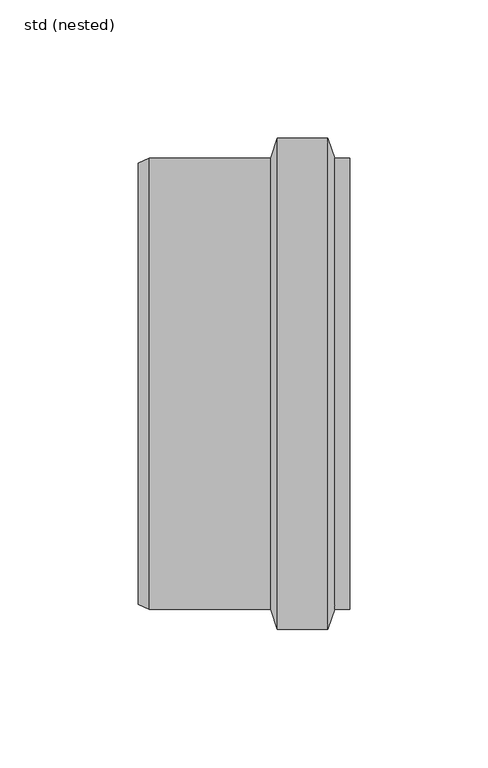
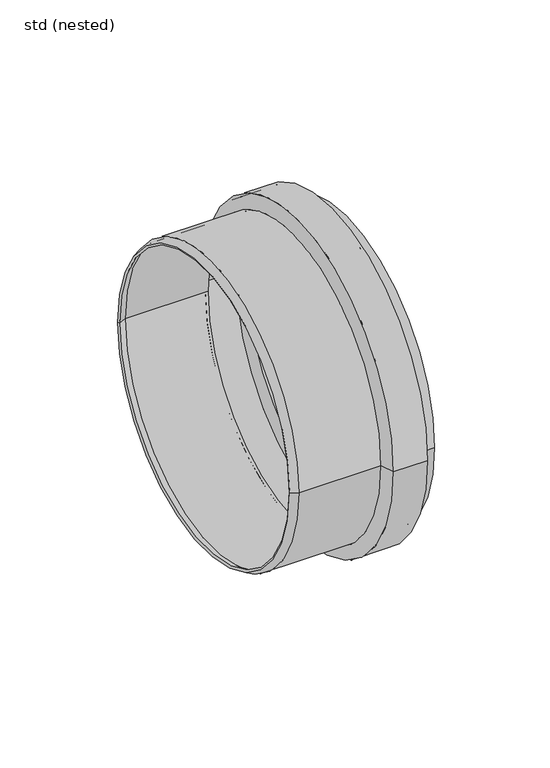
"""IFC4 building model written with IfcOpenShell, lengths in millimetres: pipe fitting geometry, ZZZ_do not use_PIF_ST_UN_ACO pipe socket_ACO : std (nested)."""

from ifc_helpers import new_model, si_unit, frame, origin, place, context, project, spatial, polyline, circle_curve, source, transform, mapped, element, save
from ifc_brep_helpers import plane_surface, cylinder_surface, revolved_surface, advanced_brep


def std_nested_4988e8d9(model_context):
    return source(origin(), model_context, "Body", "AdvancedBrep", [
        advanced_brep(
        [(70.0, -80.5, 0.0), (70.0, 80.5, 0.0), (63.7, 80.5, 0.0), (63.7, -80.5, 0.0), (70.0, -81.8, 0.0), (70.0, 81.8, 0.0), (64.6247477, -81.8, 0.0), (64.6247477, 81.8, 0.0), (62.1247477, -89.0, 0.0), (62.1247477, 89.0, 0.0), (43.8752523, -89.0, 0.0), (43.8752523, 89.0, 0.0), (41.3752523, -81.8, 0.0), (41.3752523, 81.8, 0.0), (-2.4923261, -81.8, 0.0), (-2.4923261, 81.8, 0.0), (-6.5565122, -79.8748592, 0.0), (-6.5565122, 79.8748592, 0.0), (-6.0, -78.7, 0.0), (-6.0, 78.7, 0.0), (-2.2, -80.5, 0.0), (-2.2, 80.5, 0.0), (42.3, -80.5, 0.0), (42.3, 80.5, 0.0), (44.8, -87.7, 0.0), (44.8, 87.7, 0.0), (61.2, -87.7, 0.0), (61.2, 87.7, 0.0)],
        [
            (0, 1, circle_curve(frame((70.0, 0.0, 0.0), z_axis=(1.0, 0.0, 0.0), x_axis=(0.0, 1.0, 0.0)), 80.5)),
            (1, 2),
            (2, 3, circle_curve(frame((63.7, 0.0, 0.0), z_axis=(-1.0, 0.0, 0.0), x_axis=(0.0, 1.0, 0.0)), 80.5)),
            (3, 0),
            (1, 0, circle_curve(frame((70.0, 0.0, 0.0), z_axis=(1.0, 0.0, 0.0), x_axis=(0.0, 1.0, 0.0)), 80.5)),
            (3, 2, circle_curve(frame((63.7, 0.0, 0.0), z_axis=(-1.0, 0.0, 0.0), x_axis=(0.0, 1.0, 0.0)), 80.5)),
            (4, 5, circle_curve(frame((70.0, 0.0, 0.0), z_axis=(1.0, 0.0, 0.0), x_axis=(0.0, 1.0, 0.0)), 81.8)),
            (5, 1),
            (0, 4),
            (5, 4, circle_curve(frame((70.0, 0.0, 0.0), z_axis=(1.0, 0.0, 0.0), x_axis=(0.0, 1.0, 0.0)), 81.8)),
            (6, 7, circle_curve(frame((64.6247477, 0.0, 0.0), z_axis=(1.0, 0.0, 0.0), x_axis=(0.0, 1.0, 0.0)), 81.8)),
            (7, 5),
            (4, 6),
            (7, 6, circle_curve(frame((64.6247477, 0.0, 0.0), z_axis=(1.0, 0.0, 0.0), x_axis=(0.0, 1.0, 0.0)), 81.8)),
            (8, 9, circle_curve(frame((62.1247477, 0.0, 0.0), z_axis=(1.0, 0.0, 0.0), x_axis=(0.0, 1.0, 0.0)), 89.0)),
            (9, 7),
            (6, 8),
            (9, 8, circle_curve(frame((62.1247477, 0.0, 0.0), z_axis=(1.0, 0.0, 0.0), x_axis=(0.0, 1.0, 0.0)), 89.0)),
            (10, 11, circle_curve(frame((43.8752523, 0.0, 0.0), z_axis=(1.0, 0.0, 0.0), x_axis=(0.0, 1.0, 0.0)), 89.0)),
            (11, 9),
            (8, 10),
            (11, 10, circle_curve(frame((43.8752523, 0.0, 0.0), z_axis=(1.0, 0.0, 0.0), x_axis=(0.0, 1.0, 0.0)), 89.0)),
            (12, 13, circle_curve(frame((41.3752523, 0.0, 0.0), z_axis=(1.0, 0.0, 0.0), x_axis=(0.0, 1.0, 0.0)), 81.8)),
            (13, 11),
            (10, 12),
            (13, 12, circle_curve(frame((41.3752523, 0.0, 0.0), z_axis=(1.0, 0.0, 0.0), x_axis=(0.0, 1.0, 0.0)), 81.8)),
            (14, 15, circle_curve(frame((-2.4923261, 0.0, 0.0), z_axis=(1.0, 0.0, 0.0), x_axis=(0.0, 1.0, 0.0)), 81.8)),
            (15, 13),
            (12, 14),
            (15, 14, circle_curve(frame((-2.4923261, 0.0, 0.0), z_axis=(1.0, 0.0, 0.0), x_axis=(0.0, 1.0, 0.0)), 81.8)),
            (16, 17, circle_curve(frame((-6.5565122, 0.0, 0.0), z_axis=(1.0, 0.0, 0.0), x_axis=(0.0, 1.0, 0.0)), 79.8748592)),
            (17, 15),
            (14, 16),
            (17, 16, circle_curve(frame((-6.5565122, 0.0, 0.0), z_axis=(1.0, 0.0, 0.0), x_axis=(0.0, 1.0, 0.0)), 79.8748592)),
            (18, 19, circle_curve(frame((-6.0, 0.0, 0.0), z_axis=(1.0, 0.0, 0.0), x_axis=(0.0, 1.0, 0.0)), 78.7)),
            (19, 17),
            (16, 18),
            (19, 18, circle_curve(frame((-6.0, 0.0, 0.0), z_axis=(1.0, 0.0, 0.0), x_axis=(0.0, 1.0, 0.0)), 78.7)),
            (20, 21, circle_curve(frame((-2.2, 0.0, 0.0), z_axis=(1.0, 0.0, 0.0), x_axis=(0.0, 1.0, 0.0)), 80.5)),
            (21, 19),
            (18, 20),
            (21, 20, circle_curve(frame((-2.2, 0.0, 0.0), z_axis=(1.0, 0.0, 0.0), x_axis=(0.0, 1.0, 0.0)), 80.5)),
            (22, 23, circle_curve(frame((42.3, 0.0, 0.0), z_axis=(1.0, 0.0, 0.0), x_axis=(0.0, 1.0, 0.0)), 80.5)),
            (23, 21),
            (20, 22),
            (23, 22, circle_curve(frame((42.3, 0.0, 0.0), z_axis=(1.0, 0.0, 0.0), x_axis=(0.0, 1.0, 0.0)), 80.5)),
            (24, 25, circle_curve(frame((44.8, 0.0, 0.0), z_axis=(1.0, 0.0, 0.0), x_axis=(0.0, 1.0, 0.0)), 87.7)),
            (25, 23),
            (22, 24),
            (25, 24, circle_curve(frame((44.8, 0.0, 0.0), z_axis=(1.0, 0.0, 0.0), x_axis=(0.0, 1.0, 0.0)), 87.7)),
            (26, 27, circle_curve(frame((61.2, 0.0, 0.0), z_axis=(1.0, 0.0, 0.0), x_axis=(0.0, 1.0, 0.0)), 87.7)),
            (27, 25),
            (24, 26),
            (27, 26, circle_curve(frame((61.2, 0.0, 0.0), z_axis=(1.0, 0.0, 0.0), x_axis=(0.0, 1.0, 0.0)), 87.7)),
            (2, 27),
            (26, 3),
        ],
        [
            revolved_surface(polyline([(63.7, 80.5, 0.0), (70.0, 80.5, 0.0)]), (-18.468946, 0.0, 0.0), (-1.0, 0.0, 0.0)),
            plane_surface(frame((70.0, 0.0, 0.0), z_axis=(1.0, 0.0, 0.0), x_axis=(0.0, 1.0, 0.0))),
            cylinder_surface(frame((-18.468946, 0.0, 0.0), z_axis=(-1.0, 0.0, 0.0), x_axis=(0.0, 1.0, 0.0)), 81.8),
            revolved_surface(polyline([(64.6247477, 81.8, 0.0), (62.1247477, 89.0, 0.0)]), (-18.468946, 0.0, 0.0), (-1.0, 0.0, 0.0)),
            cylinder_surface(frame((-18.468946, 0.0, 0.0), z_axis=(-1.0, 0.0, 0.0), x_axis=(0.0, 1.0, 0.0)), 89.0),
            revolved_surface(polyline([(43.8752523, 89.0, 0.0), (41.3752523, 81.8, 0.0)]), (-18.468946, 0.0, 0.0), (-1.0, 0.0, 0.0)),
            revolved_surface(polyline([(-2.4923261, 81.8, 0.0), (-6.5565122, 79.8748592, 0.0)]), (-18.468946, 0.0, 0.0), (-1.0, 0.0, 0.0)),
            revolved_surface(polyline([(-6.5565122, 79.8748592, 0.0), (-6.0, 78.7, 0.0)]), (-18.468946, 0.0, 0.0), (-1.0, 0.0, 0.0)),
            revolved_surface(polyline([(-6.0, 78.7, 0.0), (-2.2, 80.5, 0.0)]), (-18.468946, 0.0, 0.0), (-1.0, 0.0, 0.0)),
            revolved_surface(polyline([(-2.1999999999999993, 80.5, 0.0), (42.3, 80.5, 0.0)]), (-18.468946, 0.0, 0.0), (-1.0, 0.0, 0.0)),
            revolved_surface(polyline([(42.3, 80.5, 0.0), (44.8, 87.7, 0.0)]), (-18.468946, 0.0, 0.0), (-1.0, 0.0, 0.0)),
            revolved_surface(polyline([(44.8, 87.7, 0.0), (61.2, 87.7, 0.0)]), (-18.468946, 0.0, 0.0), (-1.0, 0.0, 0.0)),
            revolved_surface(polyline([(61.2, 87.7, 0.0), (63.7, 80.5, 0.0)]), (-18.468946, 0.0, 0.0), (-1.0, 0.0, 0.0)),
        ],
        [
            (0, [[1, 2, 3, 4]]),
            (0, [[5, -4, 6, -2]]),
            (1, [[7, 8, -1, 9]]),
            (1, [[10, -9, -5, -8]]),
            (2, [[11, 12, -7, 13]]),
            (2, [[14, -13, -10, -12]]),
            (3, [[15, 16, -11, 17]]),
            (3, [[18, -17, -14, -16]]),
            (4, [[19, 20, -15, 21]]),
            (4, [[22, -21, -18, -20]]),
            (5, [[23, 24, -19, 25]]),
            (5, [[26, -25, -22, -24]]),
            (2, [[27, 28, -23, 29]]),
            (2, [[30, -29, -26, -28]]),
            (6, [[31, 32, -27, 33]]),
            (6, [[34, -33, -30, -32]]),
            (7, [[35, 36, -31, 37]]),
            (7, [[38, -37, -34, -36]]),
            (8, [[39, 40, -35, 41]]),
            (8, [[42, -41, -38, -40]]),
            (9, [[43, 44, -39, 45]]),
            (9, [[46, -45, -42, -44]]),
            (10, [[47, 48, -43, 49]]),
            (10, [[50, -49, -46, -48]]),
            (11, [[51, 52, -47, 53]]),
            (11, [[54, -53, -50, -52]]),
            (12, [[-3, 55, -51, 56]]),
            (12, [[-6, -56, -54, -55]]),
        ],
    ),
    ])


if __name__ == "__main__":
    model = new_model("IFC4")
    model_context = context("Model", 3, world=origin())
    ifc_project = project(units=[si_unit("LENGTHUNIT", "METRE", prefix="MILLI")], contexts=[model_context])
    site = spatial("IfcSite", under=ifc_project)
    building = spatial("IfcBuilding", under=site)
    placement = place(None, origin())
    std_nested_shape = std_nested_4988e8d9(model_context)
    element("IfcPipeFitting", 1, ObjectType="ZZZ_do not use_PIF_ST_UN_ACO pipe socket_ACO : std (nested)", at=placement, inside=building, context=model_context, shape_type="MappedRepresentation", body=[
        mapped(std_nested_shape, transform((0.0, 0.0, 0.0), x_axis=(1.0, 0.0, 0.0), y_axis=(0.0, 1.0, 0.0), z_axis=(0.0, 0.0, 1.0))),
    ])
    save(model, "model.ifc")
